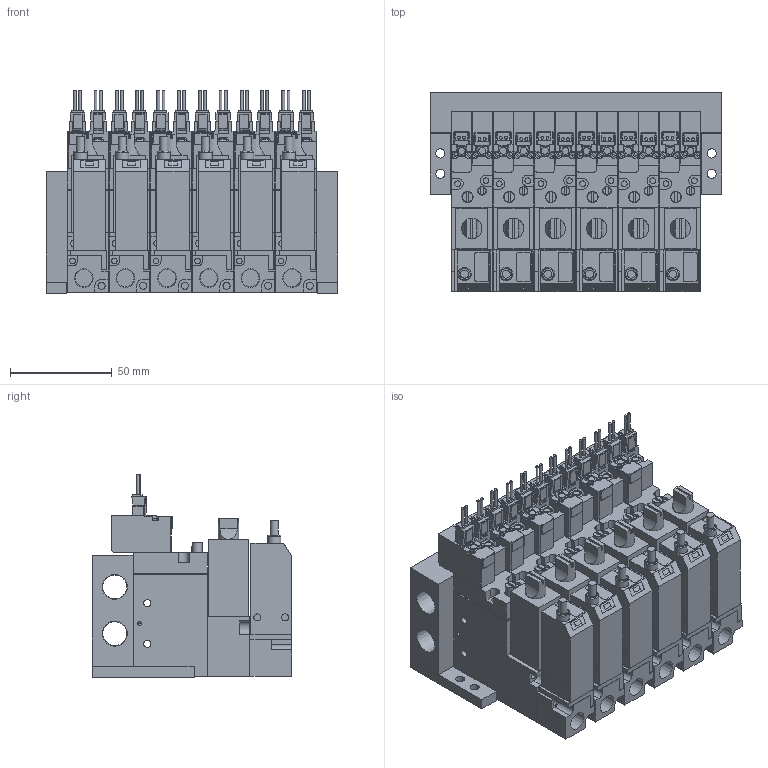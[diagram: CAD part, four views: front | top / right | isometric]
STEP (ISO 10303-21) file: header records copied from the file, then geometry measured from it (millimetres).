
FILE_DESCRIPTION(('STEP AP203'),'1');
FILE_NAME('BMPV32M2NAB25AL606.stp','2025-06-17T00:12:30',(' '),(' '),'Spatial InterOp 3D',' ',' ');
FILE_SCHEMA(('CONFIG_CONTROL_DESIGN'));
Length unit declared in the file: millimetre
Products named in the file (76): BMPV32M2NAB25AL606; Filter Assy; __; _____; BMPV32 MB06; MB BRACKET; Pressure sensor ABSL; ___ ___2; ___-2(Rc); ___; upper plate-A; ______; ____; VACUUM VALVE FUNCTION MPV42-A; UV280-4E
Assembly tree (75 placements, depth 2):
  BMPV32M2NAB25AL606
    Filter Assy
    __
    _____
    Filter Assy
    __
    _____
    Filter Assy
    __
    _____
    Filter Assy
    __
    _____
    Filter Assy
    __
    _____
    BMPV32 MB06
    MB BRACKET
    MB BRACKET
    Filter Assy
    __
    _____
    Pressure sensor ABSL
    ___ ___2
    ___-2(Rc)
    ___-2(Rc)
    ___ ___2
    Pressure sensor ABSL
    ___-2(Rc)
    ___ ___2
    Pressure sensor ABSL
    ___-2(Rc)
    ___ ___2
    Pressure sensor ABSL
    ___-2(Rc)
    ___ ___2
    Pressure sensor ABSL
    ___-2(Rc)
    ___ ___2
    Pressure sensor ABSL
    ___
    upper plate-A
    ______
    ____
    VACUUM VALVE FUNCTION MPV42-A
    ___
    upper plate-A
    ______
    ____
    VACUUM VALVE FUNCTION MPV42-A
    ___
    upper plate-A
    ______
    ____
    VACUUM VALVE FUNCTION MPV42-A
    ___
    upper plate-A
    ______
    ____
    VACUUM VALVE FUNCTION MPV42-A
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Bounding box: 143.5 x 98 x 99.75 mm (x, y, z)
Volume: 720802 mm3; surface area: 237487.9 mm2
Topology: 75 solids, 75 shells, 2375 faces, 6166 edges, 4084 vertices
Faces by surface type: plane 1905, cylinder 420, cone 44, torus 6
Full cylindrical faces by diameter (mm): 1.4 x24, 1.8 x12, 2 x12, 2.5 x16, 2.8 x24, 3 x24, 3.5 x76, 4 x12, 4.2 x6, 4.5 x4, 5 x6, 5.5 x6, 6.5 x12, 8.522 x6, 11.776 x2
Entity records: 74310 total; most frequent: CARTESIAN_POINT 12693, DIRECTION 11694, ORIENTED_EDGE 11548, EDGE_CURVE 5774, LINE 4708, VECTOR 4708, VERTEX_POINT 4024, AXIS2_PLACEMENT_3D 3493
